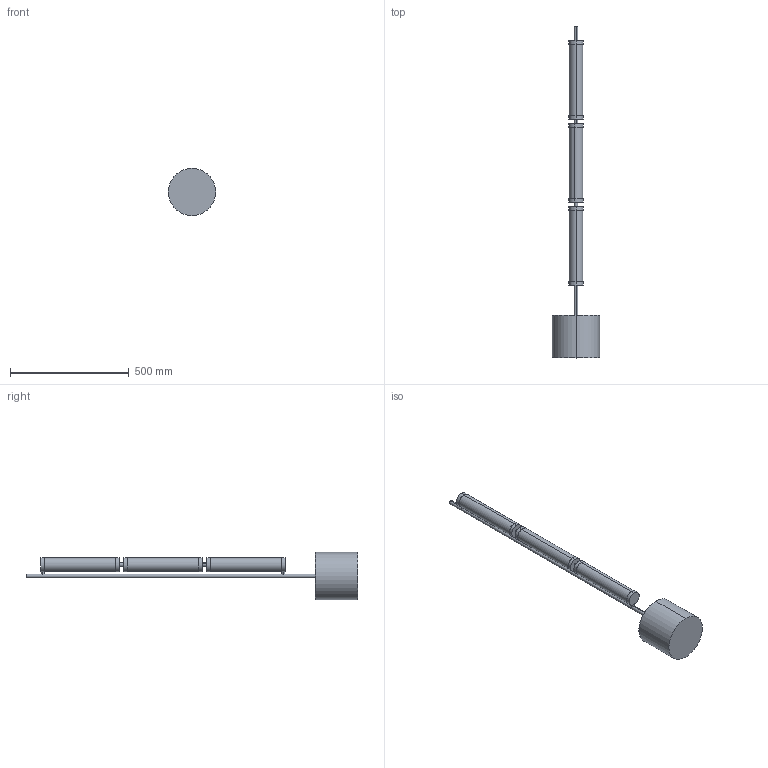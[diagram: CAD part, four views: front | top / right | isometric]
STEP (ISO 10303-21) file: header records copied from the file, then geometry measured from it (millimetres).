
FILE_DESCRIPTION (( 'STEP AP214' ), '1' );
FILE_NAME ('PIE ISON OPAL.STEP', '2025-01-30T12:29:04', ( '' ), ( '' ), 'SwSTEP 2.0', 'SolidWorks 2018', '' );
FILE_SCHEMA (( 'AUTOMOTIVE_DESIGN' ));
Length unit declared in the file: millimetre
Products named in the file (4): PIE ISON OPAL; Union pie; modulo ison opal pie; estructura pie
Assembly tree (6 placements, depth 2):
  PIE ISON OPAL
    estructura pie
    modulo ison opal pie  x3
    Union pie  x2
Bounding box: 200 x 1400 x 200 mm (x, y, z)
Volume: 8542930.9 mm3; surface area: 472593.9 mm2
Topology: 15 solids, 15 shells, 71 faces, 121 edges, 80 vertices
Faces by surface type: cylinder 36, plane 33, torus 2
Entity records: 1178 total; most frequent: CARTESIAN_POINT 233, DIRECTION 187, ORIENTED_EDGE 122, AXIS2_PLACEMENT_3D 84, EDGE_CURVE 61, VERTEX_POINT 40, CIRCLE 38, FACE_OUTER_BOUND 37
